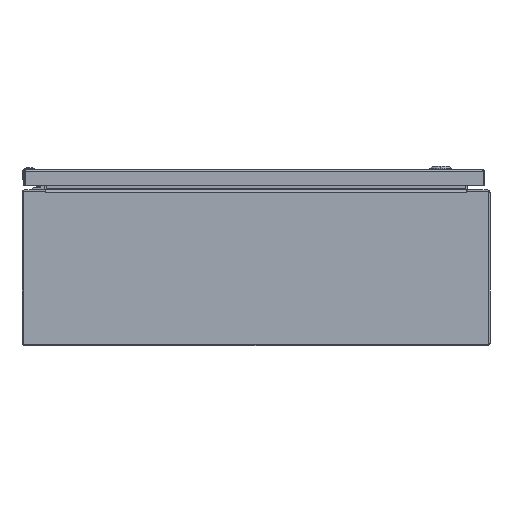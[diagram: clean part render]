
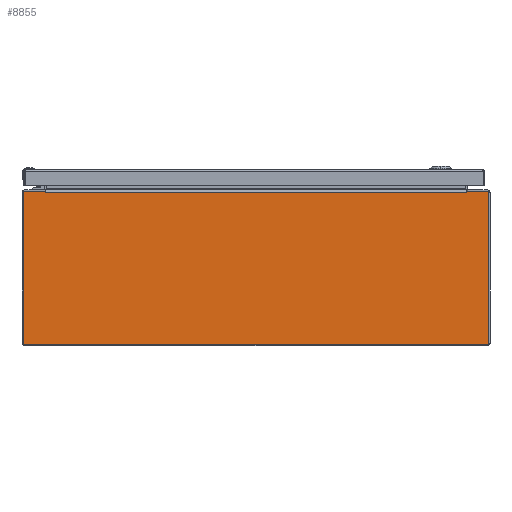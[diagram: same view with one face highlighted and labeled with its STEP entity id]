
A CAD part, front view. The second image highlights one B-rep face of the part: STEP entity #8855.
In plain terms, the highlighted planar face has unit normal (0, -1, 0).
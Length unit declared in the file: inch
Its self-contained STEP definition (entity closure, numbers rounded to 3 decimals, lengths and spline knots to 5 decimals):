
#7638=CARTESIAN_POINT('',(-11.857,0.,3.857));
#7639=DIRECTION('',(0.,-1.,0.));
#7640=DIRECTION('',(0.,0.,1.));
#7641=AXIS2_PLACEMENT_3D('',#7638,#7639,#7640);
#7646=DIRECTION('',(-1.,0.,0.));
#7647=VECTOR('',#7646,1.02894);
#7648=CARTESIAN_POINT('',(-10.82806,0.,3.937));
#7649=LINE('',#7648,#7647);
#7653=DIRECTION('',(0.174,0.,-0.985));
#7654=VECTOR('',#7653,0.08326);
#7655=CARTESIAN_POINT('',(-10.82806,0.,3.937));
#7656=LINE('',#7655,#7654);
#7660=DIRECTION('',(-1.,0.,0.));
#7661=VECTOR('',#7660,0.0156);
#7662=CARTESIAN_POINT('',(-10.798,0.,3.855));
#7663=LINE('',#7662,#7661);
#7667=DIRECTION('',(1.,0.,0.));
#7668=VECTOR('',#7667,0.0156);
#7669=CARTESIAN_POINT('',(10.798,0.,3.855));
#7670=LINE('',#7669,#7668);
#7674=DIRECTION('',(-0.174,0.,-0.985));
#7675=VECTOR('',#7674,0.08326);
#7676=CARTESIAN_POINT('',(10.82806,0.,3.937));
#7677=LINE('',#7676,#7675);
#7681=DIRECTION('',(-1.,0.,0.));
#7682=VECTOR('',#7681,1.02894);
#7683=CARTESIAN_POINT('',(11.857,0.,3.937));
#7684=LINE('',#7683,#7682);
#7688=CARTESIAN_POINT('',(11.857,0.,3.857));
#7689=DIRECTION('',(0.,-1.,0.));
#7690=DIRECTION('',(1.,0.,0.));
#7691=AXIS2_PLACEMENT_3D('',#7688,#7689,#7690);
#7696=DIRECTION('',(0.,0.,1.));
#7697=VECTOR('',#7696,7.714);
#7698=CARTESIAN_POINT('',(11.937,0.,-3.857));
#7699=LINE('',#7698,#7697);
#7703=CARTESIAN_POINT('',(11.857,0.,-3.857));
#7704=DIRECTION('',(0.,-1.,0.));
#7705=DIRECTION('',(0.,0.,-1.));
#7706=AXIS2_PLACEMENT_3D('',#7703,#7704,#7705);
#7711=DIRECTION('',(1.,0.,0.));
#7712=VECTOR('',#7711,23.714);
#7713=CARTESIAN_POINT('',(-11.857,0.,-3.937));
#7714=LINE('',#7713,#7712);
#7718=CARTESIAN_POINT('',(-11.857,0.,-3.857));
#7719=DIRECTION('',(0.,-1.,0.));
#7720=DIRECTION('',(-1.,0.,0.));
#7721=AXIS2_PLACEMENT_3D('',#7718,#7719,#7720);
#7726=DIRECTION('',(0.,0.,-1.));
#7727=VECTOR('',#7726,7.714);
#7728=CARTESIAN_POINT('',(-11.937,0.,3.857));
#7729=LINE('',#7728,#7727);
#8007=DIRECTION('',(1.,0.,0.));
#8008=VECTOR('',#8007,21.596);
#8009=CARTESIAN_POINT('',(-10.798,0.,3.855));
#8010=LINE('',#8009,#8008);
#8668=CARTESIAN_POINT('',(10.798,0.,3.855));
#8669=CARTESIAN_POINT('',(10.8136,0.,3.855));
#8670=VERTEX_POINT('',#8668);
#8671=VERTEX_POINT('',#8669);
#8672=CARTESIAN_POINT('',(10.82806,0.,3.937));
#8673=VERTEX_POINT('',#8672);
#8680=CARTESIAN_POINT('',(-10.798,0.,3.855));
#8681=CARTESIAN_POINT('',(-10.8136,0.,3.855));
#8682=VERTEX_POINT('',#8680);
#8683=VERTEX_POINT('',#8681);
#8684=CARTESIAN_POINT('',(-10.82806,0.,3.937));
#8685=VERTEX_POINT('',#8684);
#8744=CARTESIAN_POINT('',(-11.857,0.,3.937));
#8745=CARTESIAN_POINT('',(-11.937,0.,3.857));
#8746=VERTEX_POINT('',#8744);
#8747=VERTEX_POINT('',#8745);
#8752=CARTESIAN_POINT('',(-11.937,0.,-3.857));
#8753=CARTESIAN_POINT('',(-11.857,0.,-3.937));
#8754=VERTEX_POINT('',#8752);
#8755=VERTEX_POINT('',#8753);
#8760=CARTESIAN_POINT('',(11.857,0.,-3.937));
#8761=CARTESIAN_POINT('',(11.937,0.,-3.857));
#8762=VERTEX_POINT('',#8760);
#8763=VERTEX_POINT('',#8761);
#8768=CARTESIAN_POINT('',(11.937,0.,3.857));
#8769=CARTESIAN_POINT('',(11.857,0.,3.937));
#8770=VERTEX_POINT('',#8768);
#8771=VERTEX_POINT('',#8769);
#8820=CARTESIAN_POINT('',(0.,0.,0.));
#8821=DIRECTION('',(0.,-1.,0.));
#8822=DIRECTION('',(-1.,0.,0.));
#8823=AXIS2_PLACEMENT_3D('',#8820,#8821,#8822);
#8824=PLANE('',#8823);
#8826=ORIENTED_EDGE('',*,*,#8825,.F.);
#8828=ORIENTED_EDGE('',*,*,#8827,.F.);
#8830=ORIENTED_EDGE('',*,*,#8829,.T.);
#8832=ORIENTED_EDGE('',*,*,#8831,.F.);
#8834=ORIENTED_EDGE('',*,*,#8833,.T.);
#8836=ORIENTED_EDGE('',*,*,#8835,.T.);
#8838=ORIENTED_EDGE('',*,*,#8837,.F.);
#8840=ORIENTED_EDGE('',*,*,#8839,.F.);
#8842=ORIENTED_EDGE('',*,*,#8841,.F.);
#8844=ORIENTED_EDGE('',*,*,#8843,.F.);
#8846=ORIENTED_EDGE('',*,*,#8845,.F.);
#8848=ORIENTED_EDGE('',*,*,#8847,.F.);
#8850=ORIENTED_EDGE('',*,*,#8849,.F.);
#8852=ORIENTED_EDGE('',*,*,#8851,.F.);
#8853=EDGE_LOOP('',(#8826,#8828,#8830,#8832,#8834,#8836,#8838,#8840,#8842,#8844,
#8846,#8848,#8850,#8852));
#8854=FACE_OUTER_BOUND('',#8853,.F.);
#7642=CIRCLE('',#7641,0.08);
#7692=CIRCLE('',#7691,0.08);
#7707=CIRCLE('',#7706,0.08);
#7722=CIRCLE('',#7721,0.08);
#8825=EDGE_CURVE('',#8746,#8747,#7642,.T.);
#8827=EDGE_CURVE('',#8685,#8746,#7649,.T.);
#8829=EDGE_CURVE('',#8685,#8683,#7656,.T.);
#8831=EDGE_CURVE('',#8682,#8683,#7663,.T.);
#8833=EDGE_CURVE('',#8682,#8670,#8010,.T.);
#8835=EDGE_CURVE('',#8670,#8671,#7670,.T.);
#8837=EDGE_CURVE('',#8673,#8671,#7677,.T.);
#8839=EDGE_CURVE('',#8771,#8673,#7684,.T.);
#8841=EDGE_CURVE('',#8770,#8771,#7692,.T.);
#8843=EDGE_CURVE('',#8763,#8770,#7699,.T.);
#8845=EDGE_CURVE('',#8762,#8763,#7707,.T.);
#8847=EDGE_CURVE('',#8755,#8762,#7714,.T.);
#8849=EDGE_CURVE('',#8754,#8755,#7722,.T.);
#8851=EDGE_CURVE('',#8747,#8754,#7729,.T.);
#8855=ADVANCED_FACE('',(#8854),#8824,.T.);
